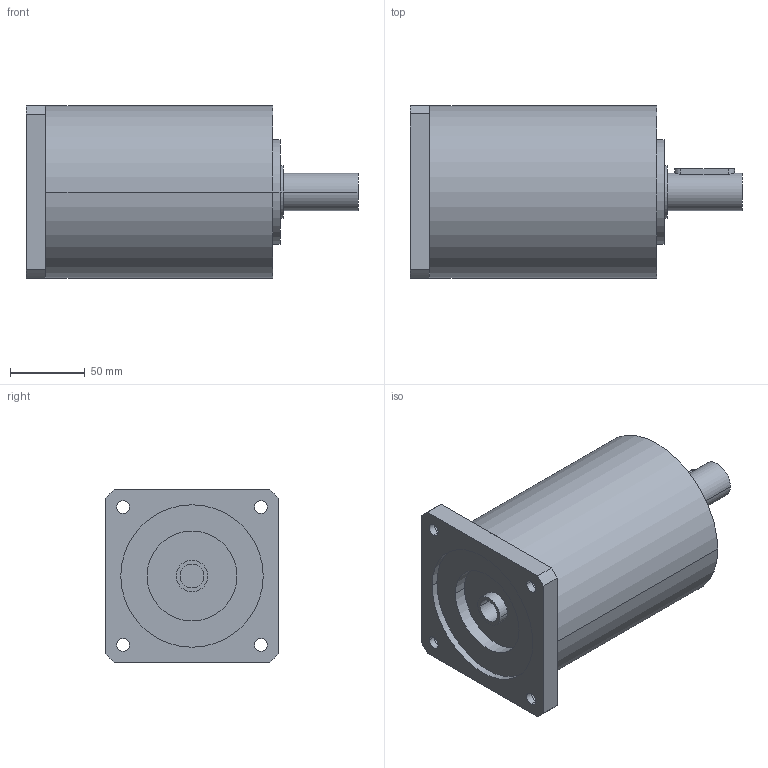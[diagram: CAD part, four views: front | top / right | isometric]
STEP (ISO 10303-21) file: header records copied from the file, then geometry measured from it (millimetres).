
FILE_DESCRIPTION(('CoCreate Modeling STEP Export'),'2;1');
FILE_NAME('GPR125_ig-9-12-16-20-28-35_25_B14_16_P18.stp','2014-08-26T14:10:28',(''),(''),'CoCreate Modeling STEP processor for AP214 (Solid Model)','CoCreate Modeling 16.00C 25-Feb-2009 (C) Parametric Technology GmbH','');
FILE_SCHEMA(('AUTOMOTIVE_DESIGN { 1 0 10303 214 1 1 1 1 }'));
Length unit declared in the file: millimetre
Products named in the file (2): GPR125_ig-9-12-16-20-28-35_25_B14_16_P18
Assembly tree (1 placements, depth 2):
  GPR125_ig-9-12-16-20-28-35_25_B14_16_P18
    GPR125_ig-9-12-16-20-28-35_25_B14_16_P18
Bounding box: 221.4 x 115 x 115 mm (x, y, z)
Volume: 1718398.5 mm3; surface area: 101933.2 mm2
Topology: 1 solids, 1 shells, 77 faces, 212 edges, 152 vertices
Faces by surface type: cylinder 48, plane 25, cone 4
Entity records: 2153 total; most frequent: ORIENTED_EDGE 420, CARTESIAN_POINT 399, DIRECTION 288, EDGE_CURVE 210, VERTEX_POINT 152, AXIS2_PLACEMENT_3D 109, EDGE_LOOP 102, FACE_OUTER_BOUND 77
